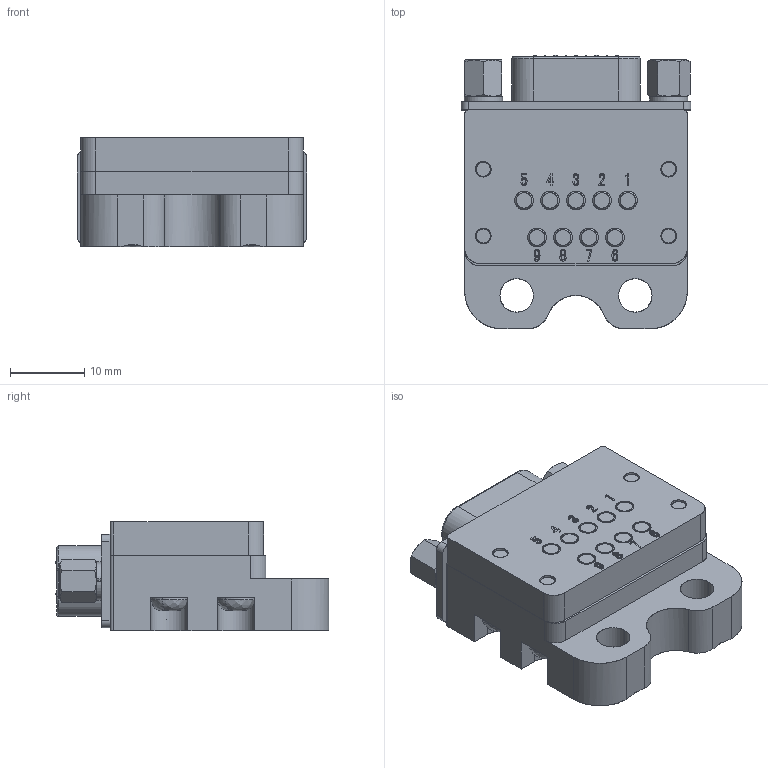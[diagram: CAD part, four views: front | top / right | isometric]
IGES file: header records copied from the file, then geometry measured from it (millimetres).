
Start section: SolidWorks IGES file using analytic representation for surfaces
Global section: file name: C:\Documents and Settings\CAD56\デスクトップ\OXR-DPS09\140190.IGS; native system: SolidWorks 2006 by SolidWorks Corporation; preprocessor: SolidWorks 2006 by SolidWorks Corporation; author: CAD56; date: 100608.181714; units: millimetre
Bounding box: 31 x 36.9 x 14.8 mm (x, y, z)
Surface area: 10279 mm2 (no closed solid volume)
Topology: 0 solids, 0 shells, 1015 faces, 13715 edges, 13699 vertices
Faces by surface type: bspline 685, revolution 330
